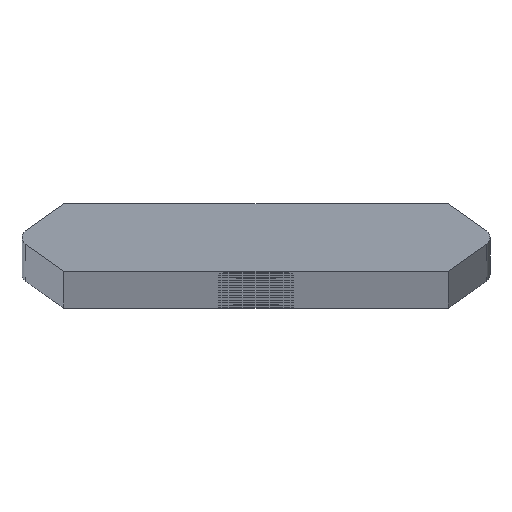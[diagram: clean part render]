
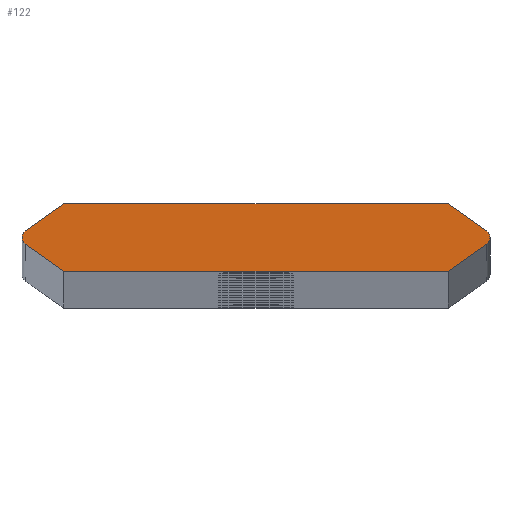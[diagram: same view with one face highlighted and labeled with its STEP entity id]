
A CAD part, top view. The second image highlights one B-rep face of the part: STEP entity #122.
In plain terms, the highlighted planar face has unit normal (0, 0, 1).
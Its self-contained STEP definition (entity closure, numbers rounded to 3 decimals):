
#122=ADVANCED_FACE('',(#226),#227,.T.);
#226=FACE_OUTER_BOUND('',#382,.T.);
#227=PLANE('',#383);
#382=EDGE_LOOP('',(#773,#774,#775,#776,#777,#778,#779,#780,#781,#782));
#383=AXIS2_PLACEMENT_3D('',#783,#784,#785);
#773=ORIENTED_EDGE('',*,*,#941,.T.);
#774=ORIENTED_EDGE('',*,*,#1078,.T.);
#775=ORIENTED_EDGE('',*,*,#1079,.F.);
#776=ORIENTED_EDGE('',*,*,#1080,.F.);
#777=ORIENTED_EDGE('',*,*,#1081,.F.);
#778=ORIENTED_EDGE('',*,*,#937,.T.);
#779=ORIENTED_EDGE('',*,*,#1082,.T.);
#780=ORIENTED_EDGE('',*,*,#1083,.F.);
#781=ORIENTED_EDGE('',*,*,#1084,.F.);
#782=ORIENTED_EDGE('',*,*,#1085,.F.);
#783=CARTESIAN_POINT('',(0.,0.,1976.0));
#784=DIRECTION('',(0.0,0.0,1.0));
#785=DIRECTION('',(1.0,0.0,0.0));
#937=EDGE_CURVE('',#1101,#1098,#1102,.T.);
#941=EDGE_CURVE('',#1109,#1106,#1110,.T.);
#1078=EDGE_CURVE('',#1106,#1336,#1338,.T.);
#1079=EDGE_CURVE('',#1339,#1336,#1340,.T.);
#1080=EDGE_CURVE('',#1341,#1339,#1342,.T.);
#1081=EDGE_CURVE('',#1101,#1341,#1343,.T.);
#1082=EDGE_CURVE('',#1098,#1344,#1345,.T.);
#1083=EDGE_CURVE('',#1346,#1344,#1347,.T.);
#1084=EDGE_CURVE('',#1348,#1346,#1349,.T.);
#1085=EDGE_CURVE('',#1109,#1348,#1350,.T.);
#1098=VERTEX_POINT('',#1368);
#1101=VERTEX_POINT('',#1372);
#1102=CIRCLE('',#1373,0.76);
#1106=VERTEX_POINT('',#1378);
#1109=VERTEX_POINT('',#1382);
#1110=CIRCLE('',#1383,0.76);
#1336=VERTEX_POINT('',#1654);
#1338=CIRCLE('',#1657,0.76);
#1339=VERTEX_POINT('',#1658);
#1340=LINE('',#1659,#1660);
#1341=VERTEX_POINT('',#1661);
#1342=LINE('',#1662,#1663);
#1343=LINE('',#1664,#1665);
#1344=VERTEX_POINT('',#1666);
#1345=CIRCLE('',#1667,0.76);
#1346=VERTEX_POINT('',#1668);
#1347=LINE('',#1669,#1670);
#1348=VERTEX_POINT('',#1671);
#1349=LINE('',#1672,#1673);
#1350=LINE('',#1674,#1675);
#1368=CARTESIAN_POINT('',(21.84,0.,1976.0));
#1372=CARTESIAN_POINT('',(21.519,-0.62,1976.0));
#1373=AXIS2_PLACEMENT_3D('',#1705,#1706,#1707);
#1378=CARTESIAN_POINT('',(-21.84,0.,1976.0));
#1382=CARTESIAN_POINT('',(-21.519,0.62,1976.0));
#1383=AXIS2_PLACEMENT_3D('',#1713,#1714,#1715);
#1654=CARTESIAN_POINT('',(-21.519,-0.62,1976.0));
#1657=AXIS2_PLACEMENT_3D('',#2032,#2033,#2034);
#1658=CARTESIAN_POINT('',(-17.921,-3.14,1976.0));
#1659=CARTESIAN_POINT('',(-22.405,0.,1976.0));
#1660=VECTOR('',#2035,1.0);
#1661=CARTESIAN_POINT('',(17.921,-3.14,1976.0));
#1662=CARTESIAN_POINT('',(17.921,-3.14,1976.0));
#1663=VECTOR('',#2036,1.0);
#1664=CARTESIAN_POINT('',(22.405,0.0,1976.0));
#1665=VECTOR('',#2037,1.0);
#1666=CARTESIAN_POINT('',(21.519,0.62,1976.0));
#1667=AXIS2_PLACEMENT_3D('',#2038,#2039,#2040);
#1668=CARTESIAN_POINT('',(17.921,3.14,1976.0));
#1669=CARTESIAN_POINT('',(22.405,0.0,1976.0));
#1670=VECTOR('',#2041,1.0);
#1671=CARTESIAN_POINT('',(-17.921,3.14,1976.0));
#1672=CARTESIAN_POINT('',(-17.921,3.14,1976.0));
#1673=VECTOR('',#2042,1.0);
#1674=CARTESIAN_POINT('',(-22.405,0.,1976.0));
#1675=VECTOR('',#2043,1.0);
#1705=CARTESIAN_POINT('',(21.08,0.0,1976.0));
#1706=DIRECTION('',(0.0,0.0,1.0));
#1707=DIRECTION('',(1.0,0.0,0.0));
#1713=CARTESIAN_POINT('',(-21.08,0.,1976.0));
#1714=DIRECTION('',(0.0,0.0,1.0));
#1715=DIRECTION('',(-1.0,0.,0.0));
#2032=CARTESIAN_POINT('',(-21.08,0.,1976.0));
#2033=DIRECTION('',(0.0,0.0,1.0));
#2034=DIRECTION('',(-1.0,0.,0.0));
#2035=DIRECTION('',(-0.819,0.574,0.0));
#2036=DIRECTION('',(-1.0,0.,0.0));
#2037=DIRECTION('',(-0.819,-0.574,0.0));
#2038=CARTESIAN_POINT('',(21.08,0.0,1976.0));
#2039=DIRECTION('',(0.0,0.0,1.0));
#2040=DIRECTION('',(1.0,0.0,0.0));
#2041=DIRECTION('',(0.819,-0.574,0.0));
#2042=DIRECTION('',(1.0,0.,0.0));
#2043=DIRECTION('',(0.819,0.574,0.0));
